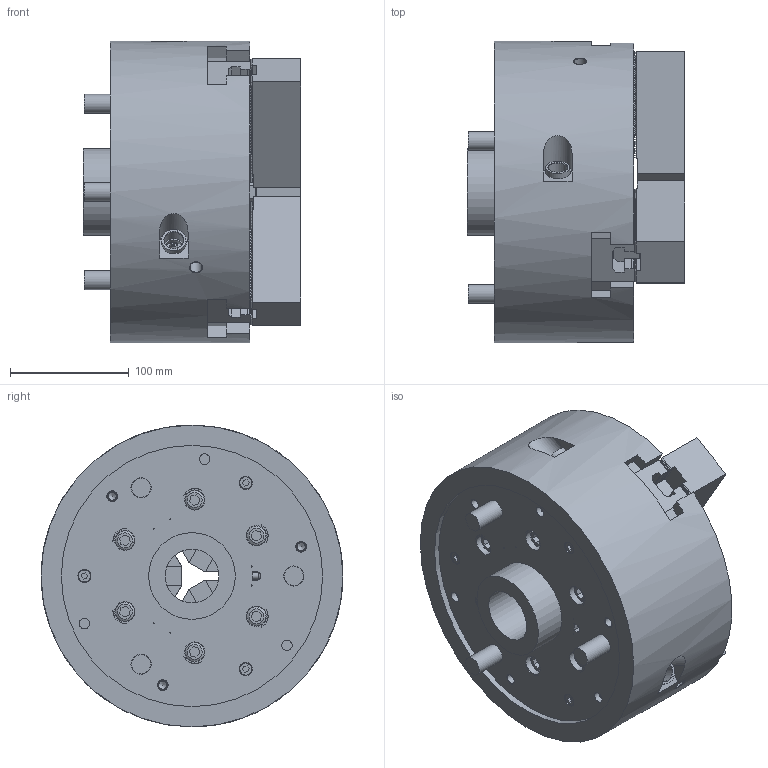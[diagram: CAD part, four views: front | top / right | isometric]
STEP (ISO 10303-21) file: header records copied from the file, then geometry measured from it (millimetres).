
FILE_DESCRIPTION (( 'STEP AP214' ), '1' );
FILE_NAME ('BL-210_61P275982-0_OC.STEP', '2020-03-24T07:06:08', ( '' ), ( '' ), 'SwSTEP 2.0', 'SolidWorks 2017', '' );
FILE_SCHEMA (( 'AUTOMOTIVE_DESIGN' ));
Length unit declared in the file: millimetre
Products named in the file (18): P316335 ソフトジョー_W_‡_[_ﾃﾞﾌｫﾙﾄ_ATI≪UA; Part1^61P228033_BL210_ASSY; B傾僫僣僉 M12亊302_~30; P316335 ソフトジョー_W_‡_[; 61P4172621 T僫僢僩b_g; 61P4172621 T僫僢僩b_g_棉太倌佱UA; BL-210_61P275982-0_OC; Part1^61P228033_BL210_ASSY_蹬怮椔; B傾僫僣僉 M12亊302_~30_棉太倌TI佱UA
Assembly tree (13 placements, depth 2):
  Part1^61P228033_BL210_ASSY
  B傾僫僣僉 M12亊302_~30
  B傾僫僣僉 M12亊302_~30
  P316335 ソフトジョー_W_‡_[
  61P4172621 T僫僢僩b_g
Bounding box: 183.2 x 254 x 254 mm (x, y, z)
Volume: 5897445.2 mm3; surface area: 434944.4 mm2
Topology: 13 solids, 22 shells, 3026 faces, 8444 edges, 5606 vertices
Faces by surface type: plane 2719, cylinder 174, bspline 76, cone 44, sphere 7, torus 6
Full cylindrical faces by diameter (mm): 1.9 x3, 5 x3, 5.5 x3, 6 x1, 6.8 x3, 8 x3, 8.8 x5, 9 x3, 10 x14, 11 x9, 12 x12, 13 x6, 14 x3, 16 x12, 17 x9, 18 x6, 19 x6, 20.5 x3, 21 x3, 24 x3, 25 x3, 45 x1, 53 x1, 56 x1, 65.5 x1, 73 x1, 220 x1, 254 x1
Entity records: 69479 total; most frequent: CARTESIAN_POINT 15517, ORIENTED_EDGE 11434, DIRECTION 10094, EDGE_CURVE 5717, LINE 5126, VECTOR 5126, VERTEX_POINT 3867, AXIS2_PLACEMENT_3D 2484
